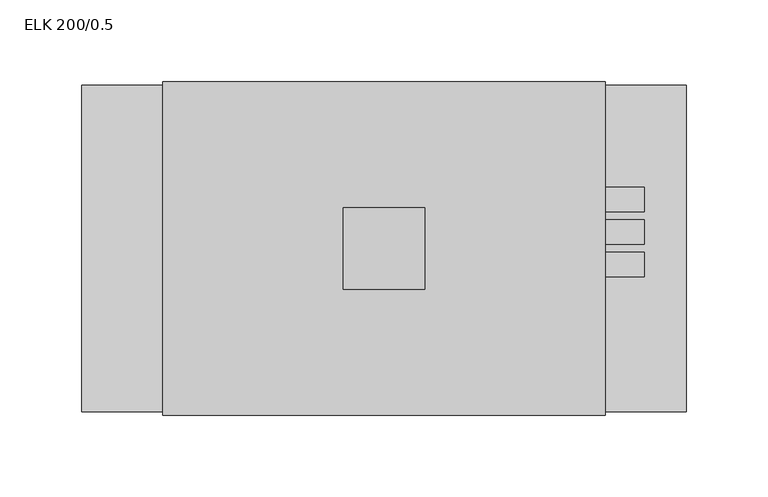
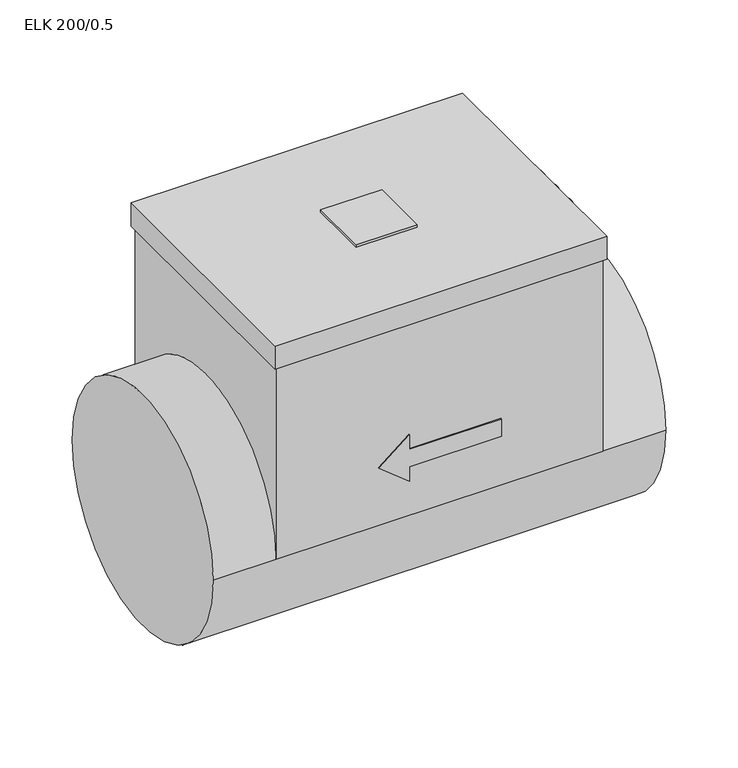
"""IFC4 building model written with IfcOpenShell, lengths in millimetres: proxy geometry, KORF_Нагреватель_Электрический_Круглый_ELK : ELK 200/0.5."""

import ifcopenshell
import ifcopenshell.guid

model = None  # the IFC model being written
_history = None  # IfcOwnerHistory: only IFC2X3 demands one
_inside = {}  # id of a spatial element -> (the spatial element, [elements in it])
_under = {}  # id of a project, library or spatial element -> (it, [spatial elements below it])
_declared = {}  # id of a project -> (the project, [libraries it declares])
_typed = {}  # id of a type object -> (the type object, [elements of that type])
_made_of = {}  # id of a material, layer set ... -> (it, [elements and type objects made of it])


def new_model(schema):
    """Start an empty IFC model of exactly this schema.

    Asked for "IFC4X3", IfcOpenShell would pick the latest addendum, in which some entities
    have other attributes; the version numbers below select the first issue.
    IFC2X3 requires an IfcOwnerHistory on every rooted entity: one is made here for all.
    """
    global model, _history
    if schema == "IFC4X3":
        model = ifcopenshell.file(schema_version=(4, 3, 0, 0))
    else:
        model = ifcopenshell.file(schema=schema)
    _inside.clear()
    _under.clear()
    _declared.clear()
    _typed.clear()
    _made_of.clear()
    _history = None
    if model.schema == "IFC2X3":
        org = make("IfcOrganization", Name="unknown")
        user = make(
            "IfcPersonAndOrganization",
            ThePerson=make("IfcPerson", FamilyName="unknown"),
            TheOrganization=org,
        )
        app = make(
            "IfcApplication",
            ApplicationDeveloper=org,
            Version="unknown",
            ApplicationFullName="unknown",
            ApplicationIdentifier="unknown",
        )
        _history = make(
            "IfcOwnerHistory",
            OwningUser=user,
            OwningApplication=app,
            ChangeAction="ADDED",
            CreationDate=0,
        )
    return model


def make(cls, **values):
    """One entity of the class cls with the attributes given. An attribute that is None is left unset."""
    return model.create_entity(
        cls, **{name: value for name, value in values.items() if value is not None}
    )


def rooted(cls, **values):
    """An entity with a GlobalId (a new one), such as an element, a storey or a relation."""
    return make(cls, GlobalId=ifcopenshell.guid.new(), OwnerHistory=_history, **values)


def si_unit(unit_type, name, prefix=None):
    """IfcSIUnit, for example si_unit("LENGTHUNIT", "METRE", prefix="MILLI")."""
    return make("IfcSIUnit", UnitType=unit_type, Prefix=prefix, Name=name)


def assignment(units):
    """IfcUnitAssignment: the units of a project."""
    return None if units is None else make("IfcUnitAssignment", Units=units)


def point(xyz):
    """IfcCartesianPoint."""
    return None if xyz is None else make("IfcCartesianPoint", Coordinates=xyz)


def direction(xyz):
    """IfcDirection."""
    return None if xyz is None else make("IfcDirection", DirectionRatios=xyz)


def frame(location, z_axis=None, x_axis=None):
    """IfcAxis2Placement3D, a coordinate frame: its origin and axes. An axis left out is left unset."""
    return make(
        "IfcAxis2Placement3D",
        Location=point(location),
        Axis=direction(z_axis),
        RefDirection=direction(x_axis),
    )


def frame_2d(location, x_axis=None):
    """IfcAxis2Placement2D, a coordinate frame in the plane: its origin and x axis."""
    return make(
        "IfcAxis2Placement2D", Location=point(location), RefDirection=direction(x_axis)
    )


def origin():
    """The frame at (0, 0, 0) with its axes left unset."""
    return frame((0.0, 0.0, 0.0))


def place(relative_to, where):
    """IfcLocalPlacement: puts the frame where relative to a parent placement (None: the world)."""
    return make(
        "IfcLocalPlacement", PlacementRelTo=relative_to, RelativePlacement=where
    )


def context(
    kind, dimensions, precision=None, world=None, true_north=None, identifier=None
):
    """IfcGeometricRepresentationContext, for example the 3D "Model" context."""
    return make(
        "IfcGeometricRepresentationContext",
        ContextIdentifier=identifier,
        ContextType=kind,
        CoordinateSpaceDimension=dimensions,
        Precision=precision,
        WorldCoordinateSystem=world,
        TrueNorth=true_north,
    )


def project(units=None, contexts=None):
    """IfcProject with its units and contexts."""
    return rooted(
        "IfcProject",
        Name="project",
        RepresentationContexts=contexts,
        UnitsInContext=assignment(units),
    )


def spatial(cls, under=None, at=None, **own):
    """A site, building, storey or space (cls), placed at a placement, below another one or the project."""
    s = rooted(cls, ObjectPlacement=at, **own)
    if under is not None:
        _under.setdefault(under.id(), (under, []))[1].append(s)
    return s


def polyline(points):
    """IfcPolyline through the points."""
    return make("IfcPolyline", Points=[point(p) for p in points])


def circle_curve(where, radius):
    """IfcCircle in the frame where."""
    return make("IfcCircle", Position=where, Radius=radius)


def trimmed(basis, trim1, trim2, sense, master):
    """IfcTrimmedCurve: the piece of a basis curve between two trims."""
    return make(
        "IfcTrimmedCurve",
        BasisCurve=basis,
        Trim1=trim1,
        Trim2=trim2,
        SenseAgreement=sense,
        MasterRepresentation=master,
    )


def segment(curve, same_sense, transition):
    """IfcCompositeCurveSegment."""
    return make(
        "IfcCompositeCurveSegment",
        Transition=transition,
        SameSense=same_sense,
        ParentCurve=curve,
    )


def composite_curve(segments, self_intersect=None):
    """IfcCompositeCurve: segments joined end to end."""
    return make("IfcCompositeCurve", Segments=segments, SelfIntersect=self_intersect)


def outline(outer, holes=None, kind="AREA"):
    """IfcArbitraryClosedProfileDef: a profile drawn as a closed curve; with holes, ...WithVoids."""
    if holes is None:
        return make("IfcArbitraryClosedProfileDef", ProfileType=kind, OuterCurve=outer)
    return make(
        "IfcArbitraryProfileDefWithVoids",
        ProfileType=kind,
        OuterCurve=outer,
        InnerCurves=holes,
    )


def extrude(swept, where, along, depth):
    """IfcExtrudedAreaSolid: the profile swept, set in the frame where, extruded along a direction by depth."""
    return make(
        "IfcExtrudedAreaSolid",
        SweptArea=swept,
        Position=where,
        ExtrudedDirection=direction(along),
        Depth=depth,
    )


def shape(context_of_items, identifier, shape_type, items):
    """IfcShapeRepresentation: the items that make up one representation, for example the "Body"."""
    return make(
        "IfcShapeRepresentation",
        ContextOfItems=context_of_items,
        RepresentationIdentifier=identifier,
        RepresentationType=shape_type,
        Items=items,
    )


def source(mapping_origin, context_of_items, identifier, shape_type, items):
    """IfcRepresentationMap: a shape defined once, which mapped items show again and again."""
    return make(
        "IfcRepresentationMap",
        MappingOrigin=mapping_origin,
        MappedRepresentation=shape(context_of_items, identifier, shape_type, items),
    )


def transform(
    local_origin,
    x_axis=None,
    y_axis=None,
    z_axis=None,
    scale=None,
    scale2=None,
    scale3=None,
    uniform=True,
):
    """IfcCartesianTransformationOperator3D, or its non-uniform kind. x_axis, y_axis, z_axis: its Axis1, 2, 3."""
    if uniform:
        return make(
            "IfcCartesianTransformationOperator3D",
            Axis1=direction(x_axis),
            Axis2=direction(y_axis),
            LocalOrigin=point(local_origin),
            Scale=scale,
            Axis3=direction(z_axis),
        )
    return make(
        "IfcCartesianTransformationOperator3DnonUniform",
        Axis1=direction(x_axis),
        Axis2=direction(y_axis),
        LocalOrigin=point(local_origin),
        Scale=scale,
        Axis3=direction(z_axis),
        Scale2=scale2,
        Scale3=scale3,
    )


def mapped(mapping_source, mapping_target):
    """IfcMappedItem: shows the shape of a source again, moved by a transform."""
    return make(
        "IfcMappedItem", MappingSource=mapping_source, MappingTarget=mapping_target
    )


def made_of(thing, what):
    """Note that an element or type object is made of a material, layer set ...; save() writes the relation."""
    if what is not None:
        _made_of.setdefault(what.id(), (what, []))[1].append(thing)
    return thing


def element(
    cls,
    number,
    at=None,
    inside=None,
    cuts=None,
    type_object=None,
    material=None,
    context=None,
    identifier="Body",
    shape_type=None,
    held_by="IfcProductDefinitionShape",
    body=None,
    shapes=None,
    **own,
):
    """One element of the class cls, such as IfcWall. Its Tag is "e" and its number.

    at: its placement. inside: the storey or other place that contains it. cuts: it is an
    opening in that element (IfcRelVoidsElement). A single representation is given by context,
    identifier, shape_type and body (its items); several are given by shapes. held_by: the class
    of the entity that holds the representations. save() writes the other relations.
    """
    e = rooted(cls, Tag="e%d" % number, ObjectPlacement=at, **own)
    if body is not None:
        shapes = [shape(context, identifier, shape_type, body)]
    if shapes is not None:
        e.Representation = make(held_by, Representations=shapes)
    if inside is not None:
        _inside.setdefault(inside.id(), (inside, []))[1].append(e)
    if cuts is not None:
        rooted(
            "IfcRelVoidsElement", RelatingBuildingElement=cuts, RelatedOpeningElement=e
        )
    if type_object is not None:
        _typed.setdefault(type_object.id(), (type_object, []))[1].append(e)
    return made_of(e, material)


def aggregate(whole, parts):
    """IfcRelAggregates: a whole, such as a stair, and the parts it consists of."""
    return rooted("IfcRelAggregates", RelatingObject=whole, RelatedObjects=parts)


def save(model, path):
    """Write the relations noted so far, then the file.

    IfcRelAggregates (storeys below a building ...), IfcRelContainedInSpatialStructure (elements
    in a storey), IfcRelDefinesByType, IfcRelAssociatesMaterial and IfcRelDeclares: one each for
    every whole, place, type object, material and project.
    """
    for whole, parts in _under.values():
        aggregate(whole, parts)
    for where, things in _inside.values():
        rooted(
            "IfcRelContainedInSpatialStructure",
            RelatedElements=things,
            RelatingStructure=where,
        )
    for kind, things in _typed.values():
        rooted("IfcRelDefinesByType", RelatedObjects=things, RelatingType=kind)
    for what, things in _made_of.values():
        rooted("IfcRelAssociatesMaterial", RelatedObjects=things, RelatingMaterial=what)
    for by, libraries in _declared.values():
        rooted("IfcRelDeclares", RelatingContext=by, RelatedDefinitions=libraries)
    model.write(path)


def plane_surface(at):
    """IfcPlane: the flat surface through the origin of the frame at, square to its z axis."""
    return make("IfcPlane", Position=at)


def cylinder_surface(at, radius):
    """IfcCylindricalSurface: all points at the distance radius from the z axis of the frame at."""
    return make("IfcCylindricalSurface", Position=at, Radius=radius)


def advanced_brep(points, edges, surfaces, faces):
    """IfcAdvancedBrep: a solid bounded by faces that lie on surfaces and meet in shared edges.

    An edge is (start, end): straight between two places in points (the first is 0);
    or (start, end, curve); or (start, end, curve, False) where it runs against its curve.
    A face is (place in surfaces, loops), or (place, loops, False) where it looks against
    its surface's normal. A loop lists edges by number (the first is 1), with a minus sign
    where the edge is run from its end to its start. The first loop is the outer one.
    """
    corners = [point(p) for p in points]
    vertices = [make("IfcVertexPoint", VertexGeometry=c) for c in corners]
    made = []
    for start, end, *more in edges:
        made.append(
            make(
                "IfcEdgeCurve",
                EdgeStart=vertices[start],
                EdgeEnd=vertices[end],
                EdgeGeometry=more[0] if more else make("IfcPolyline", Points=[corners[start], corners[end]]),
                SameSense=more[1] if len(more) > 1 else True,
            )
        )
    hull = []
    for where, loops, *sense in faces:
        bounds = []
        for j, loop in enumerate(loops):
            ring = [make("IfcOrientedEdge", EdgeElement=made[abs(k) - 1], Orientation=k > 0) for k in loop]
            bounds.append(
                make(
                    "IfcFaceOuterBound" if j == 0 else "IfcFaceBound",
                    Bound=make("IfcEdgeLoop", EdgeList=ring),
                    Orientation=True,
                )
            )
        hull.append(make("IfcAdvancedFace", Bounds=bounds, FaceSurface=surfaces[where], SameSense=sense[0] if sense else True))
    return make("IfcAdvancedBrep", Outer=make("IfcClosedShell", CfsFaces=hull))


def elk_200_0_5_a370239c(model_context):
    return source(origin(), model_context, "Body", "SolidModel", [
        extrude(outline(polyline([(210.0, 25.0), (210.0, -25.0), (160.0, -25.0), (160.0, 25.0), (210.0, 25.0)])), frame((0.0, 0.0, 186.0), z_axis=(0.0, 0.0, 1.0), x_axis=(1.0, 0.0, 0.0)), (0.0, 0.0, 1.0), 2.0),
        extrude(outline(composite_curve([segment(trimmed(circle_curve(frame_2d((-10.0, 146.0)), 7.5), [point((-17.5, 146.0))], [point((-2.5, 146.0))], False, "CARTESIAN"), True, "CONTINUOUS"), segment(trimmed(circle_curve(frame_2d((-10.0, 146.0)), 7.5), [point((-2.5, 146.0))], [point((-17.5, 146.0))], False, "CARTESIAN"), True, "CONTINUOUS")], self_intersect=False)), frame((318.5, 0.0, 0.0), z_axis=(1.0, 0.0, 0.0), x_axis=(0.0, 1.0, 0.0)), (0.0, 0.0, 1.0), 25.75),
        extrude(outline(composite_curve([segment(trimmed(circle_curve(frame_2d((10.0, 146.0)), 7.5), [point((2.5, 146.0))], [point((17.5, 146.0))], False, "CARTESIAN"), True, "CONTINUOUS"), segment(trimmed(circle_curve(frame_2d((10.0, 146.0)), 7.5), [point((17.5, 146.0))], [point((2.5, 146.0))], False, "CARTESIAN"), True, "CONTINUOUS")], self_intersect=False)), frame((318.5, 0.0, 0.0), z_axis=(1.0, 0.0, 0.0), x_axis=(0.0, 1.0, 0.0)), (0.0, 0.0, 1.0), 25.75),
        extrude(outline(composite_curve([segment(trimmed(circle_curve(frame_2d((30.0, 146.0)), 7.5), [point((22.5, 146.0))], [point((37.5, 146.0))], False, "CARTESIAN"), True, "CONTINUOUS"), segment(trimmed(circle_curve(frame_2d((30.0, 146.0)), 7.5), [point((37.5, 146.0))], [point((22.5, 146.0))], False, "CARTESIAN"), True, "CONTINUOUS")], self_intersect=False)), frame((318.5, 0.0, 0.0), z_axis=(1.0, 0.0, 0.0), x_axis=(0.0, 1.0, 0.0)), (0.0, 0.0, 1.0), 25.75),
        advanced_brep(
        [(320.5, 102.0, 166.0), (320.5, -102.0, 166.0), (49.5, -102.0, 166.0), (49.5, 102.0, 166.0), (318.5, 100.0, 166.0), (51.5, 100.0, 166.0), (51.5, -100.0, 166.0), (318.5, -100.0, 166.0), (320.5, 102.0, 186.0), (49.5, 102.0, 186.0), (49.5, -102.0, 186.0), (320.5, -102.0, 186.0), (318.5, 100.0, 0.0), (51.5, 100.0, 0.0), (160.0, 100.0, 70.0), (135.0, 100.0, 50.0), (160.0, 100.0, 30.0), (160.0, 100.0, 42.5), (235.0, 100.0, 42.5), (235.0, 100.0, 57.5), (160.0, 100.0, 57.5), (51.5, -100.0, 0.0), (318.5, -100.0, 0.0), (135.0, -100.0, 50.0), (160.0, -100.0, 70.0), (160.0, -100.0, 57.5), (235.0, -100.0, 57.5), (235.0, -100.0, 42.5), (160.0, -100.0, 42.5), (160.0, -100.0, 30.0), (370.0, -100.0, 0.0), (370.0, 100.0, 0.0), (0.0, -100.0, 0.0), (0.0, 100.0, 0.0), (160.0, -101.0, 70.0), (135.0, -101.0, 50.0), (160.0, -101.0, 30.0), (160.0, -101.0, 42.5), (235.0, -101.0, 42.5), (235.0, -101.0, 57.5), (160.0, -101.0, 57.5), (160.0, 101.0, 70.0), (160.0, 101.0, 57.5), (235.0, 101.0, 57.5), (235.0, 101.0, 42.5), (160.0, 101.0, 42.5), (160.0, 101.0, 30.0), (135.0, 101.0, 50.0)],
        [
            (0, 1),
            (1, 2),
            (2, 3),
            (3, 0),
            (4, 5),
            (5, 6),
            (6, 7),
            (7, 4),
            (8, 9),
            (9, 10),
            (10, 11),
            (11, 8),
            (3, 9),
            (8, 0),
            (2, 10),
            (1, 11),
            (4, 12),
            (12, 13),
            (13, 5),
            (14, 15),
            (15, 16),
            (16, 17),
            (17, 18),
            (18, 19),
            (19, 20),
            (20, 14),
            (13, 21, circle_curve(frame((51.5, 0.0, 0.0), z_axis=(1.0, 0.0, 0.0), x_axis=(0.0, 1.0, 0.0)), 100.0)),
            (21, 6),
            (21, 22),
            (22, 7),
            (23, 24),
            (24, 25),
            (25, 26),
            (26, 27),
            (27, 28),
            (28, 29),
            (29, 23),
            (22, 12, circle_curve(frame((318.5, 0.0, 0.0), z_axis=(-1.0, 0.0, 0.0), x_axis=(0.0, 1.0, 0.0)), 100.0)),
            (30, 31, circle_curve(frame((370.0, 0.0, 0.0), z_axis=(1.0, 0.0, 0.0), x_axis=(0.0, 1.0, 0.0)), 100.0)),
            (31, 30, circle_curve(frame((370.0, 0.0, 0.0), z_axis=(1.0, 0.0, 0.0), x_axis=(0.0, 1.0, 0.0)), 100.0)),
            (32, 33, circle_curve(frame((0.0, 0.0, 0.0), z_axis=(-1.0, 0.0, 0.0), x_axis=(0.0, 1.0, 0.0)), 100.0)),
            (33, 32, circle_curve(frame((0.0, 0.0, 0.0), z_axis=(-1.0, 0.0, 0.0), x_axis=(0.0, 1.0, 0.0)), 100.0)),
            (30, 22),
            (21, 32),
            (33, 13),
            (12, 31),
            (34, 35),
            (35, 36),
            (36, 37),
            (37, 38),
            (38, 39),
            (39, 40),
            (40, 34),
            (41, 42),
            (42, 43),
            (43, 44),
            (44, 45),
            (45, 46),
            (46, 47),
            (47, 41),
            (34, 24),
            (23, 35),
            (47, 15),
            (14, 41),
            (29, 36),
            (46, 16),
            (28, 37),
            (45, 17),
            (27, 38),
            (44, 18),
            (26, 39),
            (43, 19),
            (25, 40),
            (42, 20),
        ],
        [
            plane_surface(frame((49.5, 102.0, 166.0), z_axis=(0.0, 0.0, -1.0), x_axis=(1.0, 0.0, 0.0))),
            plane_surface(frame((49.5, 102.0, 186.0), z_axis=(0.0, 0.0, 1.0), x_axis=(-1.0, 0.0, 0.0))),
            plane_surface(frame((320.5, 102.0, 186.0), z_axis=(0.0, 1.0, 0.0), x_axis=(0.0, 0.0, -1.0))),
            plane_surface(frame((49.5, 102.0, 186.0), z_axis=(-1.0, 0.0, 0.0), x_axis=(0.0, 0.0, -1.0))),
            plane_surface(frame((49.5, -102.0, 186.0), z_axis=(0.0, -1.0, 0.0), x_axis=(0.0, 0.0, -1.0))),
            plane_surface(frame((320.5, -102.0, 186.0), z_axis=(1.0, 0.0, 0.0), x_axis=(0.0, 0.0, -1.0))),
            plane_surface(frame((318.5, 100.0, 186.0), z_axis=(0.0, 1.0, 0.0), x_axis=(0.0, 0.0, -1.0))),
            plane_surface(frame((51.5, 100.0, 186.0), z_axis=(-1.0, 0.0, 0.0), x_axis=(0.0, 0.0, -1.0))),
            plane_surface(frame((51.5, -100.0, 186.0), z_axis=(0.0, -1.0, 0.0), x_axis=(0.0, 0.0, -1.0))),
            plane_surface(frame((318.5, -100.0, 186.0), z_axis=(1.0, 0.0, 0.0), x_axis=(0.0, 0.0, -1.0))),
            plane_surface(frame((370.0, 100.0, 0.0), z_axis=(1.0, 0.0, 0.0), x_axis=(0.0, 0.0, 1.0))),
            plane_surface(frame((0.0, 100.0, 0.0), z_axis=(-1.0, 0.0, 0.0), x_axis=(0.0, 0.0, -1.0))),
            cylinder_surface(frame((0.0, 0.0, 0.0), z_axis=(1.0, 0.0, 0.0), x_axis=(0.0, 1.0, 0.0)), 100.0),
            plane_surface(frame((135.0, -101.0, 50.0), z_axis=(0.0, -1.0, 0.0), x_axis=(-0.7808688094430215, 0.0, -0.6246950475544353))),
            plane_surface(frame((135.0, 101.0, 50.0), z_axis=(0.0, 1.0, 0.0), x_axis=(0.7808688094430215, 0.0, 0.6246950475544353))),
            plane_surface(frame((160.0, -101.0, 70.0), z_axis=(-0.6246950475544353, 0.0, 0.7808688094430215), x_axis=(0.0, 1.0, 0.0))),
            plane_surface(frame((135.0, -101.0, 50.0), z_axis=(-0.6246950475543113, 0.0, -0.7808688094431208), x_axis=(0.0, 1.0, 0.0))),
            plane_surface(frame((160.0, -101.0, 30.0), z_axis=(1.0, 0.0, 0.0), x_axis=(0.0, 1.0, 0.0))),
            plane_surface(frame((160.0, -101.0, 42.5), z_axis=(0.0, 0.0, -1.0), x_axis=(0.0, 1.0, 0.0))),
            plane_surface(frame((235.0, -101.0, 42.5), z_axis=(1.0, 0.0, 0.0), x_axis=(0.0, 1.0, 0.0))),
            plane_surface(frame((235.0, -101.0, 57.5), z_axis=(0.0, 0.0, 1.0), x_axis=(0.0, 1.0, 0.0))),
            plane_surface(frame((160.0, -101.0, 57.5), z_axis=(1.0, 0.0, 0.0), x_axis=(0.0, 1.0, 0.0))),
        ],
        [
            (0, [[1, 2, 3, 4], [5, 6, 7, 8]]),
            (1, [[9, 10, 11, 12]]),
            (2, [[-4, 13, -9, 14]]),
            (3, [[-3, 15, -10, -13]]),
            (4, [[-2, 16, -11, -15]]),
            (5, [[-1, -14, -12, -16]]),
            (6, [[17, 18, 19, -5], [20, 21, 22, 23, 24, 25, 26]]),
            (7, [[-19, 27, 28, -6]]),
            (8, [[-28, 29, 30, -7], [31, 32, 33, 34, 35, 36, 37]]),
            (9, [[-17, -8, -30, 38]]),
            (10, [[39, 40]]),
            (11, [[41, 42]]),
            (12, [[-39, 43, -29, 44, -42, 45, -18, 46]]),
            (12, [[-40, -46, -38, -43]]),
            (12, [[-41, -44, -27, -45]]),
            (13, [[47, 48, 49, 50, 51, 52, 53]]),
            (14, [[54, 55, 56, 57, 58, 59, 60]]),
            (15, [[-47, 61, -31, 62]]),
            (15, [[-60, 63, -20, 64]]),
            (16, [[-48, -62, -37, 65]]),
            (16, [[-59, 66, -21, -63]]),
            (17, [[-49, -65, -36, 67]]),
            (17, [[-58, 68, -22, -66]]),
            (18, [[-50, -67, -35, 69]]),
            (18, [[-57, 70, -23, -68]]),
            (19, [[-51, -69, -34, 71]]),
            (19, [[-56, 72, -24, -70]]),
            (20, [[-52, -71, -33, 73]]),
            (20, [[-55, 74, -25, -72]]),
            (21, [[-53, -73, -32, -61]]),
            (21, [[-54, -64, -26, -74]]),
        ],
    ),
    ])


if __name__ == "__main__":
    model = new_model("IFC4")
    model_context = context("Model", 3, world=origin())
    ifc_project = project(units=[si_unit("LENGTHUNIT", "METRE", prefix="MILLI")], contexts=[model_context])
    site = spatial("IfcSite", under=ifc_project)
    building = spatial("IfcBuilding", under=site)
    placement = place(None, origin())
    elk_200_0_5_shape = elk_200_0_5_a370239c(model_context)
    element("IfcBuildingElementProxy", 1, Name="KORF_Нагреватель_Электрический_Круглый_ELK : ELK 200/0.5", ObjectType="KORF_Нагреватель_Электрический_Круглый_ELK : ELK 200/0.5", at=placement, inside=building, context=model_context, shape_type="MappedRepresentation", body=[
        mapped(elk_200_0_5_shape, transform((0.0, 0.0, 0.0), x_axis=(1.0, 0.0, 0.0), y_axis=(0.0, 1.0, 0.0), z_axis=(0.0, 0.0, 1.0))),
    ])
    save(model, "model.ifc")
